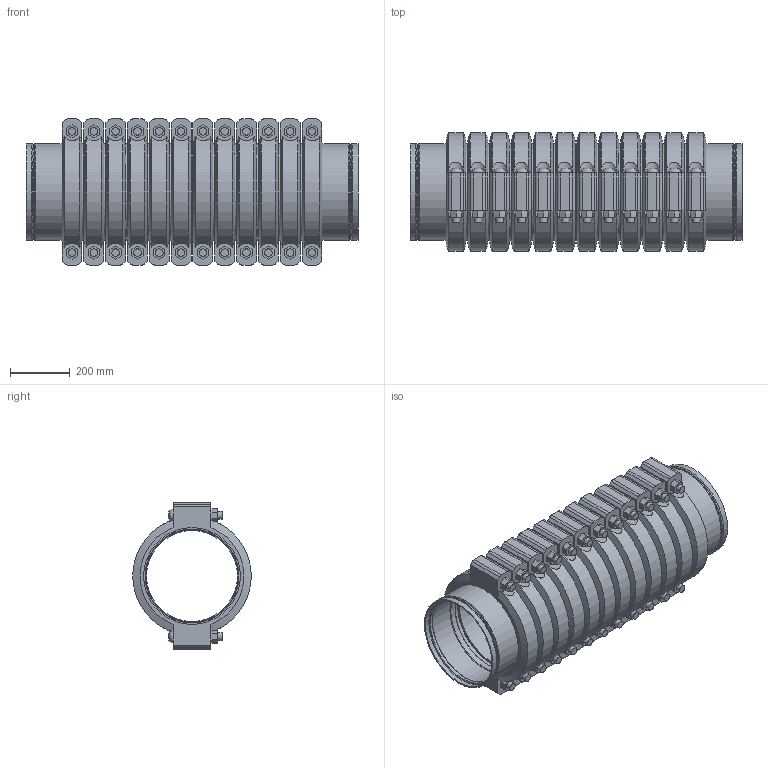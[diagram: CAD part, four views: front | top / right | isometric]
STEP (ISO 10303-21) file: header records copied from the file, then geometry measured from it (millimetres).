
FILE_DESCRIPTION(/* description */ ('VIC STRENGTHIN 100 EXPANSION JOINT 12 COUPLINGS NEUTRAL STYLE E155 (ST1)','CAx-IF Rec.Pracs.---Representation and Presentation of Product Manufacturing Information (PMI)---4.0---2014-10-13'),/* implementation_level */ '2;1');
FILE_NAME(/* name */ 'C:\Users\Vjadhav\AppData\Roaming\Autodesk\ApplicationPlugins\Victaulic.Temp\A29\Victaulic_SS-StrengThin 100_Expansion Joint_Neutral_12 Couplings_Style E155 (ST1)_12 Coup_Neut_12 (300).stp',/* time_stamp */ '2021-07-20T17:42:48+05:00',/* author */ ('kkamble'),/* organization */ ('Victaulic'),/* preprocessor_version */ 'ST-DEVELOPER v17.2',/* originating_system */ 'Autodesk Inventor 2019',/* authorisation */ '');
FILE_SCHEMA (('AP242_MANAGED_MODEL_BASED_3D_ENGINEERING_MIM_LF { 1 0 10303 442 1 1 4 }'));
Length unit declared in the file: inch
Products named in the file (4): E155-12.0; E494G-12.0; Nipple-12.0; 077-12.0
Assembly tree (25 placements, depth 2):
  E155-12.0
    E494G-12.0  x2
    Nipple-12.0  x11
    077-12.0  x12
Bounding box: 1111.25 x 397 x 488.95 mm (x, y, z)
Volume: 48913054.1 mm3; surface area: 6344922 mm2
Topology: 25 solids, 49 shells, 934 faces, 2300 edges, 1614 vertices
Faces by surface type: plane 512, cylinder 314, cone 52, torus 32, bspline 24
Full cylindrical faces by diameter (mm): 25.4 x48, 27.432 x24, 304.8 x11, 306.426 x2, 308.737 x2, 314.3 x6, 314.96 x12, 315.976 x2, 318.287 x24, 323.85 x63
Entity records: 4169 total; most frequent: CARTESIAN_POINT 844, DIRECTION 715, ORIENTED_EDGE 580, AXIS2_PLACEMENT_3D 310, EDGE_CURVE 290, VERTEX_POINT 209, CIRCLE 175, EDGE_LOOP 135
